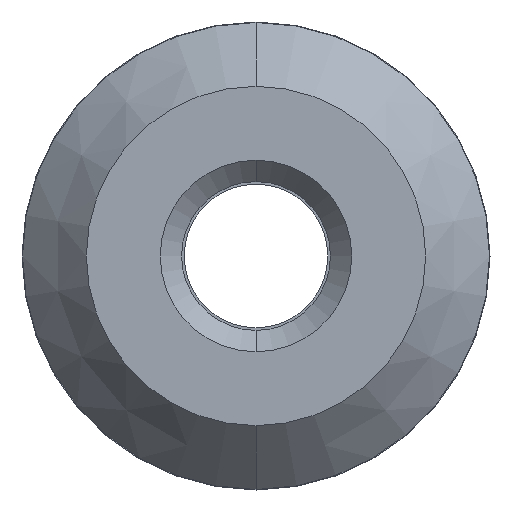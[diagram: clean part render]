
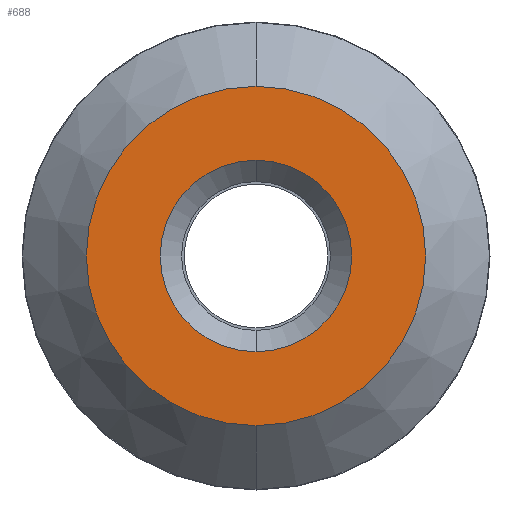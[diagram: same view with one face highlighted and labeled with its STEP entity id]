
A CAD part, front view. The second image highlights one B-rep face of the part: STEP entity #688.
In plain terms, the highlighted planar face has unit normal (0, -1, 0).
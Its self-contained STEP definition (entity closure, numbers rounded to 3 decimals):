
#584=CARTESIAN_POINT('Axis2P3D Location',(0.,0.,0.)) ;
#588=CARTESIAN_POINT('Vertex',(0.,0.,-7.975)) ;
#590=CARTESIAN_POINT('Vertex',(0.,0.,7.975)) ;
#615=CARTESIAN_POINT('Axis2P3D Location',(0.,0.,0.)) ;
#636=CARTESIAN_POINT('Vertex',(0.,0.,4.5)) ;
#643=CARTESIAN_POINT('Vertex',(0.,0.,-4.5)) ;
#646=CARTESIAN_POINT('Axis2P3D Location',(0.,0.,0.)) ;
#663=CARTESIAN_POINT('Axis2P3D Location',(0.,0.,0.)) ;
#675=CARTESIAN_POINT('Axis2P3D Location',(-7.188,0.,0.)) ;
#585=DIRECTION('Axis2P3D Direction',(0.,1.,0.)) ;
#616=DIRECTION('Axis2P3D Direction',(0.,1.,0.)) ;
#647=DIRECTION('Axis2P3D Direction',(0.,-1.,-0.)) ;
#664=DIRECTION('Axis2P3D Direction',(0.,-1.,-0.)) ;
#676=DIRECTION('Axis2P3D Direction',(0.,-1.,0.)) ;
#677=DIRECTION('Axis2P3D XDirection',(0.,0.,-1.)) ;
#586=AXIS2_PLACEMENT_3D('Circle Axis2P3D',#584,#585,$) ;
#617=AXIS2_PLACEMENT_3D('Circle Axis2P3D',#615,#616,$) ;
#648=AXIS2_PLACEMENT_3D('Circle Axis2P3D',#646,#647,$) ;
#665=AXIS2_PLACEMENT_3D('Circle Axis2P3D',#663,#664,$) ;
#678=AXIS2_PLACEMENT_3D('Plane Axis2P3D',#675,#676,#677) ;
#681=ORIENTED_EDGE('',*,*,#619,.T.) ;
#682=ORIENTED_EDGE('',*,*,#592,.T.) ;
#685=ORIENTED_EDGE('',*,*,#650,.F.) ;
#686=ORIENTED_EDGE('',*,*,#667,.F.) ;
#687=FACE_BOUND('',#684,.T.) ;
#688=ADVANCED_FACE('Rivoluzione1',(#683,#687),#679,.T.) ;
#587=CIRCLE('generated circle',#586,7.975) ;
#618=CIRCLE('generated circle',#617,7.975) ;
#649=CIRCLE('generated circle',#648,4.5) ;
#666=CIRCLE('generated circle',#665,4.5) ;
#592=EDGE_CURVE('',#589,#591,#587,.F.) ;
#619=EDGE_CURVE('',#591,#589,#618,.F.) ;
#650=EDGE_CURVE('',#644,#637,#649,.T.) ;
#667=EDGE_CURVE('',#637,#644,#666,.T.) ;
#680=EDGE_LOOP('',(#681,#682)) ;
#684=EDGE_LOOP('',(#685,#686)) ;
#683=FACE_OUTER_BOUND('',#680,.T.) ;
#679=PLANE('Plane',#678) ;
#589=VERTEX_POINT('',#588) ;
#591=VERTEX_POINT('',#590) ;
#637=VERTEX_POINT('',#636) ;
#644=VERTEX_POINT('',#643) ;
